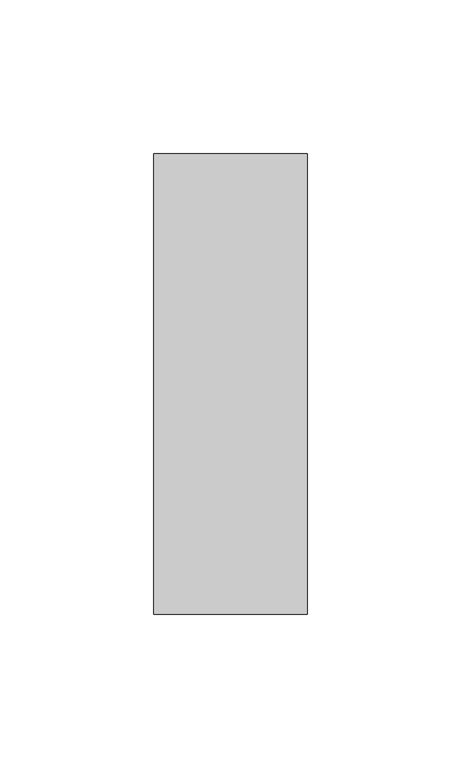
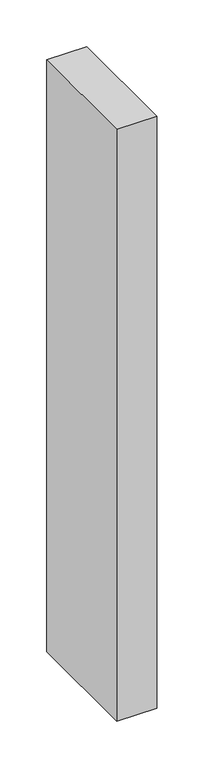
"""IFC4 building model written with IfcOpenShell, lengths in millimetres: member geometry, 矩形竖梃 : 教学楼 – 矩形竖梃 – 50x150mm."""

from ifc_helpers import new_model, si_unit, frame, origin, place, context, project, spatial, polyline, outline, extrude, source, transform, mapped, element, save


def member_ef2f5788(model_context):
    return source(origin(), model_context, "Body", "SweptSolid", [
        extrude(outline(polyline([(25.0, 75.0), (25.0, -75.0), (-25.0, -75.0), (-25.0, 75.0), (25.0, 75.0)])), frame((0.0, 0.0, -775.0000003), z_axis=(0.0, 0.0, 1.0), x_axis=(1.0, 0.0, 0.0)), (0.0, 0.0, 1.0), 775.0000003),
    ])


if __name__ == "__main__":
    model = new_model("IFC4")
    model_context = context("Model", 3, world=origin())
    ifc_project = project(units=[si_unit("LENGTHUNIT", "METRE", prefix="MILLI")], contexts=[model_context])
    site = spatial("IfcSite", under=ifc_project)
    building = spatial("IfcBuilding", under=site)
    placement = place(None, origin())
    member_shape = member_ef2f5788(model_context)
    element("IfcMember", 1, ObjectType="矩形竖梃 : 教学楼 – 矩形竖梃 – 50x150mm", at=placement, inside=building, context=model_context, shape_type="MappedRepresentation", body=[
        mapped(member_shape, transform((0.0, 0.0, 0.0), x_axis=(1.0, 0.0, 0.0), y_axis=(0.0, 1.0, 0.0), z_axis=(0.0, 0.0, 1.0))),
    ])
    save(model, "model.ifc")
